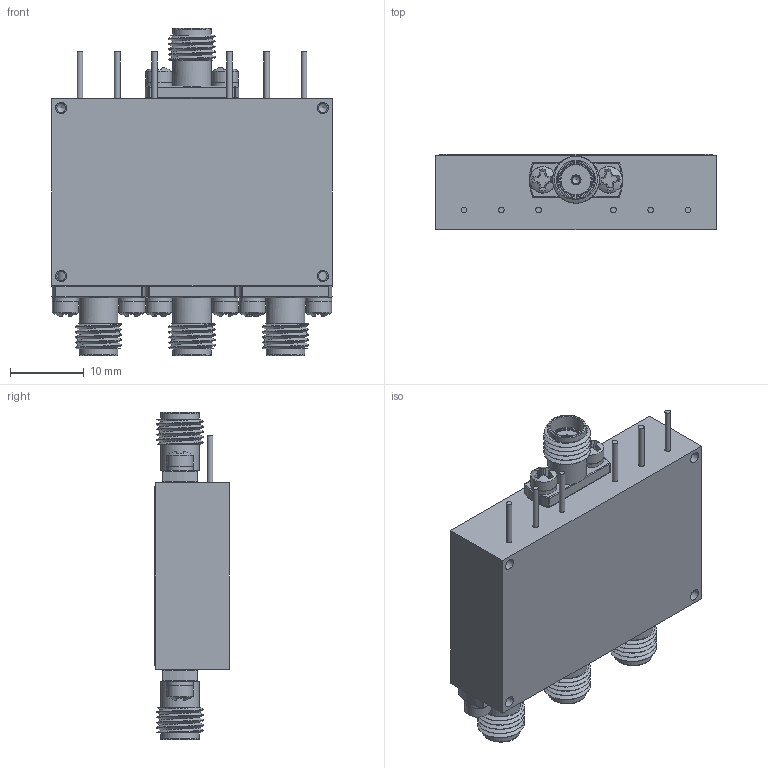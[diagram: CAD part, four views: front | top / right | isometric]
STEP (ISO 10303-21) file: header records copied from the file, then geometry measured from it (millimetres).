
FILE_DESCRIPTION (( 'STEP AP214' ), '1' );
FILE_NAME ('P3T-500M18G-60-T-SFF-LV-SP.STEP', '2024-11-19T16:30:00', ( '' ), ( '' ), 'SwSTEP 2.0', 'SolidWorks 2024', '' );
FILE_SCHEMA (( 'AUTOMOTIVE_DESIGN' ));
Length unit declared in the file: inch
Products named in the file (1): P3T-500M18G-60-T-SFF-LV-SP
Bounding box: 38.1 x 10.16 x 44.45 mm (x, y, z)
Volume: 10985.8 mm3; surface area: 7835 mm2
Topology: 39 solids, 39 shells, 837 faces, 3202 edges, 2648 vertices
Faces by surface type: plane 491, cylinder 150, torus 96, cone 52, sphere 40, bspline 8
Full cylindrical faces by diameter (mm): 0.381 x4, 0.508 x8, 0.762 x10, 1.016 x4, 1.191 x4, 1.27 x4, 1.524 x4, 2.184 x8, 2.591 x8, 3.302 x4, 3.556 x8, 4.191 x8, 4.597 x4, 5.283 x8
Entity records: 53335 total; most frequent: CARTESIAN_POINT 17645, ORIENTED_EDGE 5912, DIRECTION 4458, EDGE_CURVE 2956, VERTEX_POINT 2620, LINE 1486, AXIS2_PLACEMENT_3D 1486, VECTOR 1486
